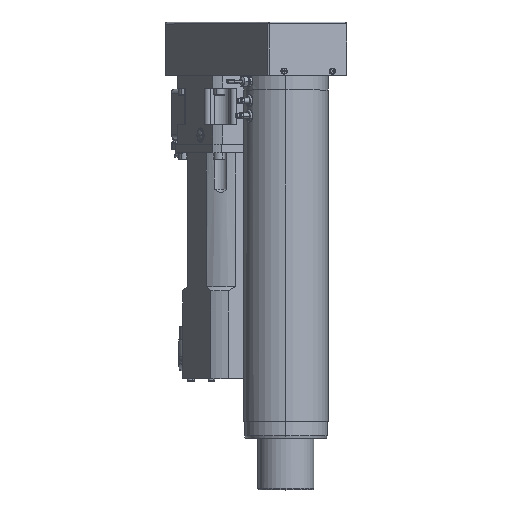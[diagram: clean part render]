
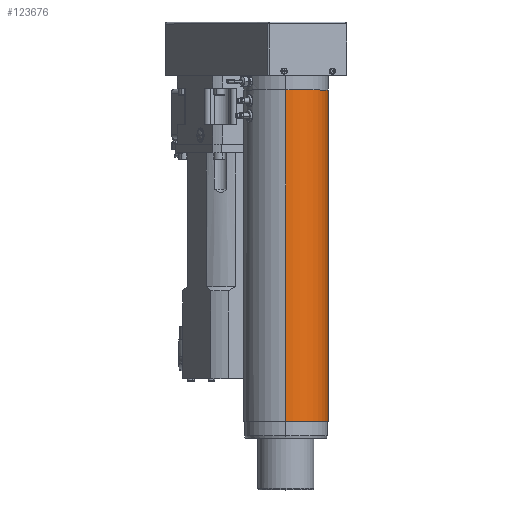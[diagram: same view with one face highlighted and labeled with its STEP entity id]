
A CAD part, top view. The second image highlights one B-rep face of the part: STEP entity #123676.
In plain terms, the highlighted cylindrical face has radius 49 mm (diameter 98 mm), a partial arc.
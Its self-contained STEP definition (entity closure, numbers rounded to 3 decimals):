
#2100 = DIRECTION ( 'NONE',  ( 0., -1., 0. ) ) ;
#2553 = AXIS2_PLACEMENT_3D ( 'NONE', #88778, #127230, #98056 ) ;
#9604 = VERTEX_POINT ( 'NONE', #121088 ) ;
#10815 = EDGE_CURVE ( 'NONE', #122462, #40442, #49160, .T. ) ;
#17490 = EDGE_CURVE ( 'NONE', #9604, #122462, #129182, .T. ) ;
#17953 = ORIENTED_EDGE ( 'NONE', *, *, #44743, .T. ) ;
#19360 = EDGE_LOOP ( 'NONE', ( #17953, #127641, #48299, #107470 ) ) ;
#22693 = VECTOR ( 'NONE', #120588, 1000. ) ;
#28353 = CARTESIAN_POINT ( 'NONE',  ( 295.994, 129.631, 441.747 ) ) ;
#40442 = VERTEX_POINT ( 'NONE', #47088 ) ;
#44170 = DIRECTION ( 'NONE',  ( 0., -1., 0. ) ) ;
#44743 = EDGE_CURVE ( 'NONE', #9604, #73560, #80740, .T. ) ;
#45992 = EDGE_CURVE ( 'NONE', #73560, #40442, #123277, .T. ) ;
#46972 = CARTESIAN_POINT ( 'NONE',  ( 295.994, 514.631, 539.747 ) ) ;
#47088 = CARTESIAN_POINT ( 'NONE',  ( 295.994, 129.631, 539.747 ) ) ;
#47533 = DIRECTION ( 'NONE',  ( 0., -1., 0. ) ) ;
#48299 = ORIENTED_EDGE ( 'NONE', *, *, #10815, .F. ) ;
#49160 = CIRCLE ( 'NONE', #2553, 49. ) ;
#58985 = VECTOR ( 'NONE', #2100, 1000. ) ;
#73560 = VERTEX_POINT ( 'NONE', #46972 ) ;
#74622 = CARTESIAN_POINT ( 'NONE',  ( 295.994, 514.631, 490.747 ) ) ;
#76024 = CYLINDRICAL_SURFACE ( 'NONE', #81521, 49. ) ;
#77215 = DIRECTION ( 'NONE',  ( 0., 0., -1. ) ) ;
#80740 = CIRCLE ( 'NONE', #97566, 49. ) ;
#81521 = AXIS2_PLACEMENT_3D ( 'NONE', #97741, #47533, #117628 ) ;
#81599 = CARTESIAN_POINT ( 'NONE',  ( 295.994, 109.631, 441.747 ) ) ;
#88778 = CARTESIAN_POINT ( 'NONE',  ( 295.994, 129.631, 490.747 ) ) ;
#92817 = CARTESIAN_POINT ( 'NONE',  ( 295.994, 109.631, 539.747 ) ) ;
#97566 = AXIS2_PLACEMENT_3D ( 'NONE', #74622, #44170, #77215 ) ;
#97741 = CARTESIAN_POINT ( 'NONE',  ( 295.994, 109.631, 490.747 ) ) ;
#98056 = DIRECTION ( 'NONE',  ( 0., 0., -1. ) ) ;
#107470 = ORIENTED_EDGE ( 'NONE', *, *, #17490, .F. ) ;
#117628 = DIRECTION ( 'NONE',  ( 0., 0., -1. ) ) ;
#120588 = DIRECTION ( 'NONE',  ( 0., -1., 0. ) ) ;
#121088 = CARTESIAN_POINT ( 'NONE',  ( 295.994, 514.631, 441.747 ) ) ;
#122462 = VERTEX_POINT ( 'NONE', #28353 ) ;
#123277 = LINE ( 'NONE', #92817, #58985 ) ;
#123676 = ADVANCED_FACE ( 'NONE', ( #126253 ), #76024, .T. ) ;
#126253 = FACE_OUTER_BOUND ( 'NONE', #19360, .T. ) ;
#127230 = DIRECTION ( 'NONE',  ( 0., -1., 0. ) ) ;
#127641 = ORIENTED_EDGE ( 'NONE', *, *, #45992, .T. ) ;
#129182 = LINE ( 'NONE', #81599, #22693 ) ;
